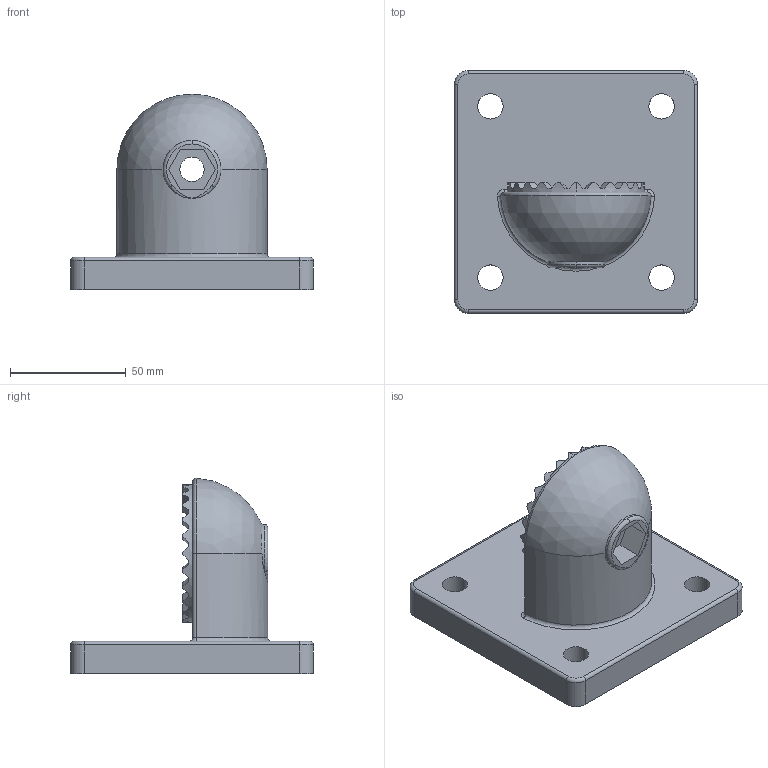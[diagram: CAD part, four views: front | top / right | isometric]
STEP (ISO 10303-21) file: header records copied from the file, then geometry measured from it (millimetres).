
FILE_DESCRIPTION (( 'STEP AP214' ), '1' );
FILE_NAME ('272-65-AV-SW.step', '2021-09-02T07:46:15', ( '' ), ( '' ), 'SwSTEP 2.0', 'SolidWorks 2019', '' );
FILE_SCHEMA (( 'AUTOMOTIVE_DESIGN' ));
Length unit declared in the file: millimetre
Products named in the file (1): 272-65-AV-SW
Bounding box: 105 x 105 x 84.46 mm (x, y, z)
Volume: 245088.5 mm3; surface area: 40596.6 mm2
Topology: 1 solids, 1 shells, 155 faces, 433 edges, 281 vertices
Faces by surface type: plane 112, cylinder 29, torus 11, bspline 2, sphere 1
Entity records: 5190 total; most frequent: CARTESIAN_POINT 1306, ORIENTED_EDGE 862, DIRECTION 810, EDGE_CURVE 431, AXIS2_PLACEMENT_3D 327, VERTEX_POINT 281, CIRCLE 173, EDGE_LOOP 168
